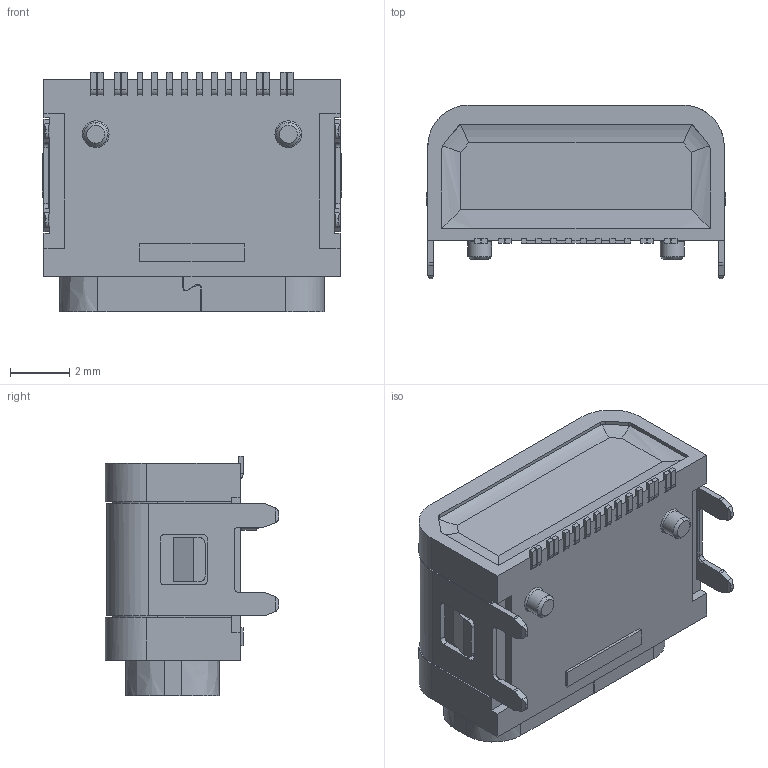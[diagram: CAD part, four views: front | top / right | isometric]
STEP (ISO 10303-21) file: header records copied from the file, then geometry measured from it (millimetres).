
FILE_DESCRIPTION (( 'STEP AP214' ), '1' );
FILE_NAME ('U5025-16PN7.85LF5A.STEP', '2026-05-19T08:37:22', ( '' ), ( '' ), 'SwSTEP 2.0', 'SolidWorks 2024', '' );
FILE_SCHEMA (( 'AUTOMOTIVE_DESIGN' ));
Length unit declared in the file: millimetre
Products named in the file (1): U5025-16PN7.85LF5A
Bounding box: 10.1 x 5.86 x 8.1 mm (x, y, z)
Surface area: 1414 mm2 (no closed solid volume)
Topology: 0 solids, 43 shells, 1849 faces, 4875 edges, 2996 vertices
Faces by surface type: bspline 1849
Entity records: 53730 total; most frequent: CARTESIAN_POINT 24759, ORIENTED_EDGE 9387, EDGE_CURVE 4873, B_SPLINE_CURVE_WITH_KNOTS 4433, VERTEX_POINT 2998, EDGE_LOOP 1905, FACE_OUTER_BOUND 1855, ADVANCED_FACE 1849
